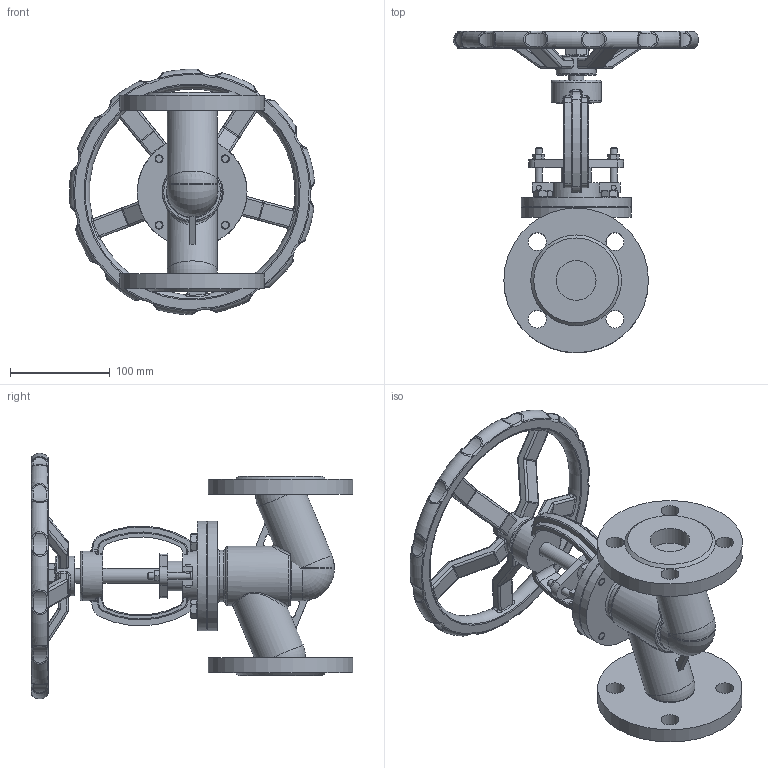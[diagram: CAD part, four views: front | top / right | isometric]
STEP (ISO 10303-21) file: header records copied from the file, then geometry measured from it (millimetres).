
FILE_DESCRIPTION(('STEP AP203'), '1');
FILE_NAME('VSO3131M-F-S 孰囡囗 玎镱痦 DN.ru 捏40 畜16', '2026-04-15T20:41:02', ('R2D2'), (''), 'C3D Converter', 'C3D Toolkit', '');
FILE_SCHEMA(('CONFIG_CONTROL_DESIGN'));
Length unit declared in the file: millimetre
Products named in the file (1): VSO3131M-F-S
Bounding box: 245.86 x 322.5 x 246.25 mm (x, y, z)
Volume: 1652976.6 mm3; surface area: 261062 mm2
Topology: 1 solids, 1 shells, 997 faces, 2402 edges, 1435 vertices
Faces by surface type: plane 290, cylinder 223, torus 149, extrusion 118, bspline 74, sphere 72, cone 71
Full cylindrical faces by diameter (mm): 5 x8, 7 x4, 8 x6, 15 x3, 16 x4, 18 x9, 30 x1, 40 x3, 50 x5, 52 x1, 60 x1, 110 x2, 145 x2
Entity records: 64039 total; most frequent: CARTESIAN_POINT 34113, ORIENTED_EDGE 4612, DIRECTION 4245, EDGE_CURVE 2306, AXIS2_PLACEMENT_3D 1694, VERTEX_POINT 1431, EDGE_LOOP 1161, FACE_BOUND 1051
